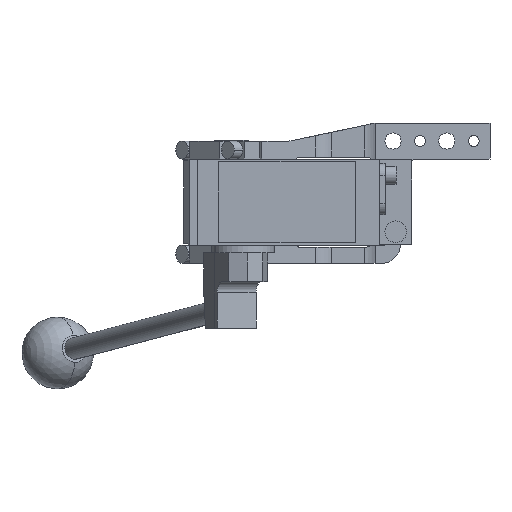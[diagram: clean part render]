
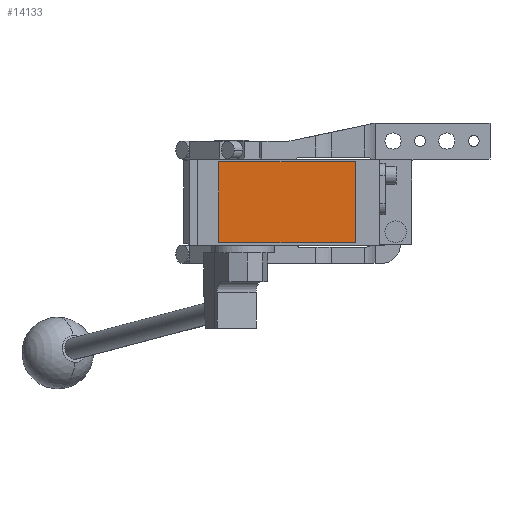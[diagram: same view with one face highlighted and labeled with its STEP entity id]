
A CAD part, front view. The second image highlights one B-rep face of the part: STEP entity #14133.
In plain terms, the highlighted planar face has unit normal (0, -1, 0).
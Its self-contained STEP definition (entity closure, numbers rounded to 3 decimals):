
#933 = VECTOR ( 'NONE', #12910, 1000. ) ;
#1620 = EDGE_CURVE ( 'NONE', #14775, #5027, #3829, .T. ) ;
#1924 = CARTESIAN_POINT ( 'NONE',  ( 69., -280.5, 22.5 ) ) ;
#2163 = ORIENTED_EDGE ( 'NONE', *, *, #6866, .T. ) ;
#3086 = VECTOR ( 'NONE', #9401, 1000. ) ;
#3775 = VECTOR ( 'NONE', #11768, 1000. ) ;
#3829 = LINE ( 'NONE', #8518, #3775 ) ;
#4312 = LINE ( 'NONE', #12343, #11688 ) ;
#4705 = CARTESIAN_POINT ( 'NONE',  ( -7., -280.5, -22.5 ) ) ;
#4826 = FACE_OUTER_BOUND ( 'NONE', #9883, .T. ) ;
#5027 = VERTEX_POINT ( 'NONE', #12492 ) ;
#6866 = EDGE_CURVE ( 'NONE', #5027, #14913, #4312, .T. ) ;
#6950 = ORIENTED_EDGE ( 'NONE', *, *, #1620, .T. ) ;
#7212 = DIRECTION ( 'NONE',  ( 0., 0., -1. ) ) ;
#8295 = LINE ( 'NONE', #12753, #3086 ) ;
#8333 = CARTESIAN_POINT ( 'NONE',  ( 0., -280.5, 0. ) ) ;
#8518 = CARTESIAN_POINT ( 'NONE',  ( -7., -280.5, -22.5 ) ) ;
#8830 = AXIS2_PLACEMENT_3D ( 'NONE', #8333, #14007, #7212 ) ;
#9366 = PLANE ( 'NONE',  #8830 ) ;
#9401 = DIRECTION ( 'NONE',  ( -1., 0., 0. ) ) ;
#9883 = EDGE_LOOP ( 'NONE', ( #10277, #6950, #2163, #11019 ) ) ;
#10277 = ORIENTED_EDGE ( 'NONE', *, *, #10370, .T. ) ;
#10370 = EDGE_CURVE ( 'NONE', #14910, #14775, #14140, .T. ) ;
#11019 = ORIENTED_EDGE ( 'NONE', *, *, #13678, .T. ) ;
#11688 = VECTOR ( 'NONE', #12207, 1000. ) ;
#11768 = DIRECTION ( 'NONE',  ( 1., 0., 0. ) ) ;
#11929 = CARTESIAN_POINT ( 'NONE',  ( -7., -280.5, 22.5 ) ) ;
#12001 = CARTESIAN_POINT ( 'NONE',  ( -7., -280.5, 22.5 ) ) ;
#12207 = DIRECTION ( 'NONE',  ( 0., 0., 1. ) ) ;
#12343 = CARTESIAN_POINT ( 'NONE',  ( 69., -280.5, 22.5 ) ) ;
#12492 = CARTESIAN_POINT ( 'NONE',  ( 69., -280.5, -22.5 ) ) ;
#12753 = CARTESIAN_POINT ( 'NONE',  ( -7., -280.5, 22.5 ) ) ;
#12910 = DIRECTION ( 'NONE',  ( 0., 0., -1. ) ) ;
#13678 = EDGE_CURVE ( 'NONE', #14913, #14910, #8295, .T. ) ;
#14007 = DIRECTION ( 'NONE',  ( 0., -1., 0. ) ) ;
#14133 = ADVANCED_FACE ( 'NONE', ( #4826 ), #9366, .T. ) ;
#14140 = LINE ( 'NONE', #11929, #933 ) ;
#14775 = VERTEX_POINT ( 'NONE', #4705 ) ;
#14910 = VERTEX_POINT ( 'NONE', #12001 ) ;
#14913 = VERTEX_POINT ( 'NONE', #1924 ) ;
